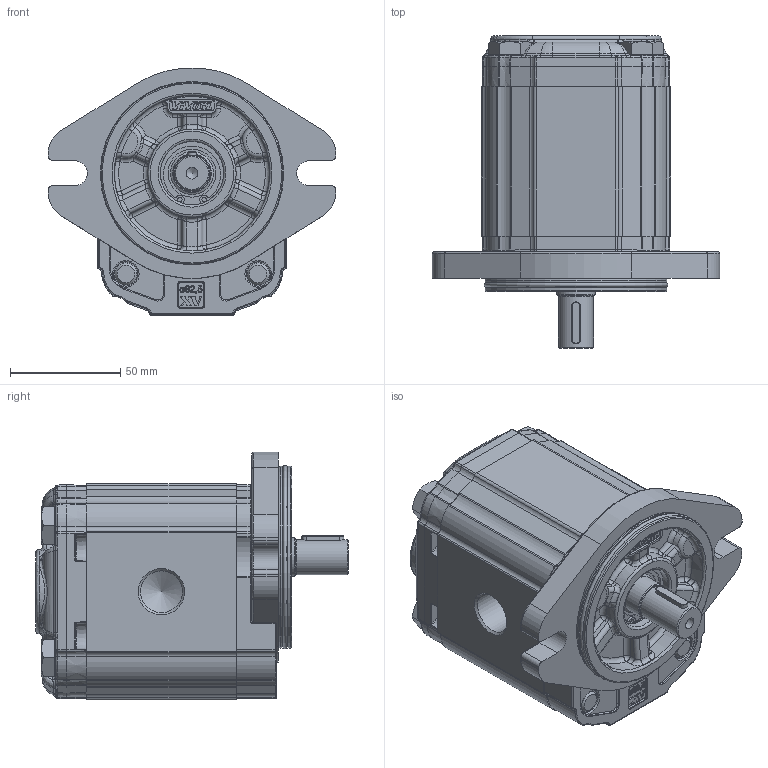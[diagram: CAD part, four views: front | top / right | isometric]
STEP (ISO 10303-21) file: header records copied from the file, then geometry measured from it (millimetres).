
FILE_DESCRIPTION(/* description */ ('Unknown'),/* implementation_level */ '2;1');
FILE_NAME(/* name */ 'X2P5151BCBA',/* time_stamp */ '2021-07-16T13:45:46+02:00',/* author */ ('Unknown'),/* organization */ ('Unknown'),/* preprocessor_version */ 'ST-DEVELOPER v16.7',/* originating_system */ 'Solid Edge',/* authorisation */ 'Unknown');
FILE_SCHEMA (('AUTOMOTIVE_DESIGN {1 0 10303 214 3 1 1}'));
Products named in the file (5): X2P5151BCBA; X2P51; 2B; X2CBH68; XP219-A
Assembly tree (4 placements, depth 2):
  X2P5151BCBA
    X2P51
    2B
    X2CBH68
    XP219-A
Bounding box: 130.38 x 141.7 x 112.3 mm (x, y, z)
Volume: 833780.5 mm3; surface area: 109832.1 mm2
Topology: 4 solids, 6 shells, 2083 faces, 5105 edges, 3093 vertices
Faces by surface type: cylinder 619, plane 573, bspline 537, torus 243, cone 73, sphere 38
Full cylindrical faces by diameter (mm): 2 x2, 5.367 x1, 10 x4, 10.5 x4, 11 x2, 15.875 x1, 16 x4, 17.42 x1, 17.48 x2, 18.724 x1, 19 x1, 20.595 x1, 21.741 x1, 24.117 x1, 25.834 x1, 28.56 x1, 28.57 x1, 28.8 x1, 30.4 x1, 79.6 x2, 82.5 x2
Entity records: 88509 total; most frequent: CARTESIAN_POINT 29273, ORIENTED_EDGE 9858, DIRECTION 8227, EDGE_CURVE 4929, AXIS2_PLACEMENT_3D 3098, VERTEX_POINT 3042, FACE_BOUND 2271, EDGE_LOOP 2267
